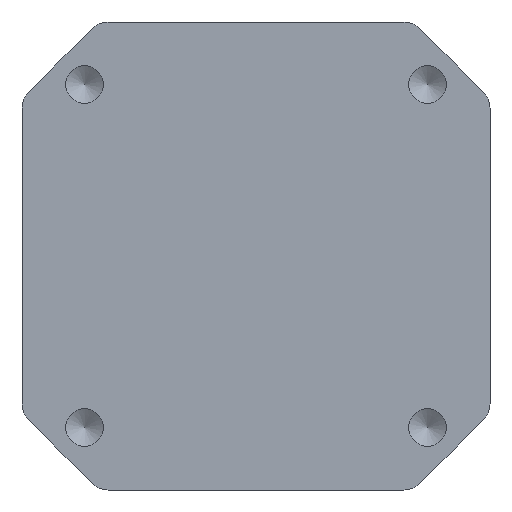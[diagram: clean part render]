
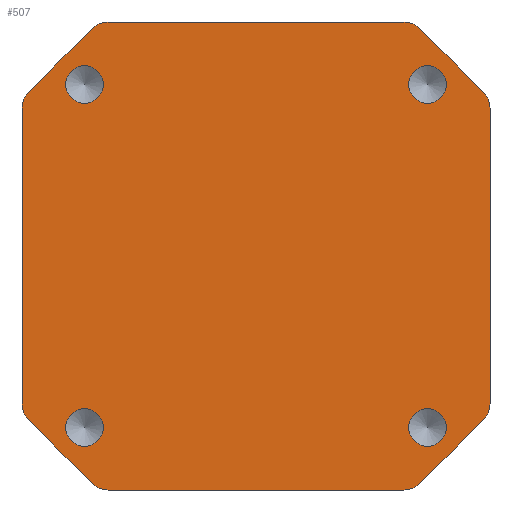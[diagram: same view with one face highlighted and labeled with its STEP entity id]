
A CAD part, front view. The second image highlights one B-rep face of the part: STEP entity #507.
In plain terms, the highlighted planar face has unit normal (0, -1, 0).
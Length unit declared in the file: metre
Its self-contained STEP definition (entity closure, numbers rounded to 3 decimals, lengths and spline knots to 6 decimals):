
#52=LINE('',#828,#84);
#53=LINE('',#833,#85);
#54=LINE('',#837,#86);
#55=LINE('',#841,#87);
#56=LINE('',#845,#88);
#57=LINE('',#849,#89);
#58=LINE('',#853,#90);
#59=LINE('',#857,#91);
#84=VECTOR('',#657,1.);
#85=VECTOR('',#660,1.);
#86=VECTOR('',#663,1.);
#87=VECTOR('',#666,1.);
#88=VECTOR('',#669,1.);
#89=VECTOR('',#672,1.);
#90=VECTOR('',#675,1.);
#91=VECTOR('',#678,1.);
#128=ORIENTED_EDGE('',*,*,#256,.T.);
#129=ORIENTED_EDGE('',*,*,#257,.T.);
#130=ORIENTED_EDGE('',*,*,#258,.T.);
#131=ORIENTED_EDGE('',*,*,#259,.F.);
#132=ORIENTED_EDGE('',*,*,#260,.F.);
#133=ORIENTED_EDGE('',*,*,#261,.T.);
#134=ORIENTED_EDGE('',*,*,#262,.T.);
#135=ORIENTED_EDGE('',*,*,#263,.F.);
#136=ORIENTED_EDGE('',*,*,#264,.F.);
#137=ORIENTED_EDGE('',*,*,#265,.T.);
#138=ORIENTED_EDGE('',*,*,#266,.T.);
#139=ORIENTED_EDGE('',*,*,#267,.F.);
#140=ORIENTED_EDGE('',*,*,#268,.F.);
#141=ORIENTED_EDGE('',*,*,#269,.T.);
#142=ORIENTED_EDGE('',*,*,#270,.T.);
#143=ORIENTED_EDGE('',*,*,#271,.F.);
#144=ORIENTED_EDGE('',*,*,#272,.F.);
#145=ORIENTED_EDGE('',*,*,#273,.F.);
#146=ORIENTED_EDGE('',*,*,#274,.F.);
#147=ORIENTED_EDGE('',*,*,#275,.F.);
#256=EDGE_CURVE('',#320,#321,#52,.T.);
#257=EDGE_CURVE('',#321,#322,#368,.F.);
#258=EDGE_CURVE('',#322,#323,#53,.T.);
#259=EDGE_CURVE('',#324,#323,#369,.T.);
#260=EDGE_CURVE('',#325,#324,#54,.F.);
#261=EDGE_CURVE('',#325,#326,#370,.F.);
#262=EDGE_CURVE('',#326,#327,#55,.T.);
#263=EDGE_CURVE('',#328,#327,#371,.T.);
#264=EDGE_CURVE('',#329,#328,#56,.F.);
#265=EDGE_CURVE('',#329,#330,#372,.F.);
#266=EDGE_CURVE('',#330,#331,#57,.T.);
#267=EDGE_CURVE('',#332,#331,#373,.T.);
#268=EDGE_CURVE('',#333,#332,#58,.F.);
#269=EDGE_CURVE('',#333,#334,#374,.F.);
#270=EDGE_CURVE('',#334,#335,#59,.T.);
#271=EDGE_CURVE('',#320,#335,#375,.T.);
#272=EDGE_CURVE('',#336,#336,#376,.T.);
#273=EDGE_CURVE('',#337,#337,#377,.T.);
#274=EDGE_CURVE('',#338,#338,#378,.T.);
#275=EDGE_CURVE('',#339,#339,#379,.T.);
#320=VERTEX_POINT('',#829);
#321=VERTEX_POINT('',#830);
#322=VERTEX_POINT('',#832);
#323=VERTEX_POINT('',#834);
#324=VERTEX_POINT('',#836);
#325=VERTEX_POINT('',#838);
#326=VERTEX_POINT('',#840);
#327=VERTEX_POINT('',#842);
#328=VERTEX_POINT('',#844);
#329=VERTEX_POINT('',#846);
#330=VERTEX_POINT('',#848);
#331=VERTEX_POINT('',#850);
#332=VERTEX_POINT('',#852);
#333=VERTEX_POINT('',#854);
#334=VERTEX_POINT('',#856);
#335=VERTEX_POINT('',#858);
#336=VERTEX_POINT('',#861);
#337=VERTEX_POINT('',#863);
#338=VERTEX_POINT('',#865);
#339=VERTEX_POINT('',#867);
#368=CIRCLE('',#567,0.002);
#369=CIRCLE('',#568,0.002);
#370=CIRCLE('',#569,0.002);
#371=CIRCLE('',#570,0.002);
#372=CIRCLE('',#571,0.002);
#373=CIRCLE('',#572,0.002);
#374=CIRCLE('',#573,0.002);
#375=CIRCLE('',#574,0.002);
#376=CIRCLE('',#575,0.0017);
#377=CIRCLE('',#576,0.0017);
#378=CIRCLE('',#577,0.0017);
#379=CIRCLE('',#578,0.0017);
#393=EDGE_LOOP('',(#128,#129,#130,#131,#132,#133,#134,#135,#136,#137,#138,
#139,#140,#141,#142,#143));
#394=EDGE_LOOP('',(#144));
#395=EDGE_LOOP('',(#145));
#396=EDGE_LOOP('',(#146));
#397=EDGE_LOOP('',(#147));
#443=FACE_BOUND('',#393,.T.);
#444=FACE_BOUND('',#394,.T.);
#445=FACE_BOUND('',#395,.T.);
#446=FACE_BOUND('',#396,.T.);
#447=FACE_BOUND('',#397,.T.);
#497=PLANE('',#566);
#507=ADVANCED_FACE('',(#443,#444,#445,#446,#447),#497,.F.);
#566=AXIS2_PLACEMENT_3D('',#827,#655,#656);
#567=AXIS2_PLACEMENT_3D('',#831,#658,#659);
#568=AXIS2_PLACEMENT_3D('',#835,#661,#662);
#569=AXIS2_PLACEMENT_3D('',#839,#664,#665);
#570=AXIS2_PLACEMENT_3D('',#843,#667,#668);
#571=AXIS2_PLACEMENT_3D('',#847,#670,#671);
#572=AXIS2_PLACEMENT_3D('',#851,#673,#674);
#573=AXIS2_PLACEMENT_3D('',#855,#676,#677);
#574=AXIS2_PLACEMENT_3D('',#859,#679,#680);
#575=AXIS2_PLACEMENT_3D('',#860,#681,#682);
#576=AXIS2_PLACEMENT_3D('',#862,#683,#684);
#577=AXIS2_PLACEMENT_3D('',#864,#685,#686);
#578=AXIS2_PLACEMENT_3D('',#866,#687,#688);
#655=DIRECTION('',(0.,1.,0.));
#656=DIRECTION('',(0.,0.,1.));
#657=DIRECTION('',(1.,0.,0.));
#658=DIRECTION('',(0.,1.,0.));
#659=DIRECTION('',(0.,0.,1.));
#660=DIRECTION('',(0.707,0.,0.707));
#661=DIRECTION('',(0.,1.,0.));
#662=DIRECTION('',(0.,0.,1.));
#663=DIRECTION('',(0.,0.,1.));
#664=DIRECTION('',(0.,1.,0.));
#665=DIRECTION('',(0.,0.,1.));
#666=DIRECTION('',(-0.707,0.,0.707));
#667=DIRECTION('',(0.,1.,0.));
#668=DIRECTION('',(0.,0.,1.));
#669=DIRECTION('',(-1.,0.,0.));
#670=DIRECTION('',(0.,1.,0.));
#671=DIRECTION('',(0.,0.,1.));
#672=DIRECTION('',(-0.707,0.,-0.707));
#673=DIRECTION('',(0.,1.,0.));
#674=DIRECTION('',(0.,0.,1.));
#675=DIRECTION('',(0.,0.,-1.));
#676=DIRECTION('',(0.,1.,0.));
#677=DIRECTION('',(0.,0.,1.));
#678=DIRECTION('',(0.707,0.,-0.707));
#679=DIRECTION('',(0.,1.,0.));
#680=DIRECTION('',(0.,0.,1.));
#681=DIRECTION('',(0.,-1.,0.));
#682=DIRECTION('',(0.,0.,-1.));
#683=DIRECTION('',(0.,-1.,0.));
#684=DIRECTION('',(0.,0.,-1.));
#685=DIRECTION('',(0.,-1.,0.));
#686=DIRECTION('',(0.,0.,-1.));
#687=DIRECTION('',(0.,-1.,0.));
#688=DIRECTION('',(0.,0.,-1.));
#827=CARTESIAN_POINT('',(0.016327,0.01,-0.02115));
#828=CARTESIAN_POINT('',(0.016327,0.01,-0.02115));
#829=CARTESIAN_POINT('',(-0.013377,0.01,-0.02115));
#830=CARTESIAN_POINT('',(0.013377,0.01,-0.02115));
#831=CARTESIAN_POINT('',(0.013377,0.01,-0.01915));
#832=CARTESIAN_POINT('',(0.014791,0.01,-0.020564));
#833=CARTESIAN_POINT('',(0.014791,0.01,-0.020564));
#834=CARTESIAN_POINT('',(0.020564,0.01,-0.014791));
#835=CARTESIAN_POINT('',(0.01915,0.01,-0.013377));
#836=CARTESIAN_POINT('',(0.02115,0.01,-0.013377));
#837=CARTESIAN_POINT('',(0.02115,0.01,0.016327));
#838=CARTESIAN_POINT('',(0.02115,0.01,0.013377));
#839=CARTESIAN_POINT('',(0.01915,0.01,0.013377));
#840=CARTESIAN_POINT('',(0.020564,0.01,0.014791));
#841=CARTESIAN_POINT('',(0.020564,0.01,0.014791));
#842=CARTESIAN_POINT('',(0.014791,0.01,0.020564));
#843=CARTESIAN_POINT('',(0.013377,0.01,0.01915));
#844=CARTESIAN_POINT('',(0.013377,0.01,0.02115));
#845=CARTESIAN_POINT('',(-0.016327,0.01,0.02115));
#846=CARTESIAN_POINT('',(-0.013377,0.01,0.02115));
#847=CARTESIAN_POINT('',(-0.013377,0.01,0.01915));
#848=CARTESIAN_POINT('',(-0.014791,0.01,0.020564));
#849=CARTESIAN_POINT('',(-0.014791,0.01,0.020564));
#850=CARTESIAN_POINT('',(-0.020564,0.01,0.014791));
#851=CARTESIAN_POINT('',(-0.01915,0.01,0.013377));
#852=CARTESIAN_POINT('',(-0.02115,0.01,0.013377));
#853=CARTESIAN_POINT('',(-0.02115,0.01,0.016327));
#854=CARTESIAN_POINT('',(-0.02115,0.01,-0.013377));
#855=CARTESIAN_POINT('',(-0.01915,0.01,-0.013377));
#856=CARTESIAN_POINT('',(-0.020564,0.01,-0.014791));
#857=CARTESIAN_POINT('',(-0.020564,0.01,-0.014791));
#858=CARTESIAN_POINT('',(-0.014791,0.01,-0.020564));
#859=CARTESIAN_POINT('',(-0.013377,0.01,-0.01915));
#860=CARTESIAN_POINT('',(-0.0155,0.01,-0.0155));
#861=CARTESIAN_POINT('',(-0.0155,0.01,-0.0172));
#862=CARTESIAN_POINT('',(0.0155,0.01,0.0155));
#863=CARTESIAN_POINT('',(0.0155,0.01,0.0138));
#864=CARTESIAN_POINT('',(-0.0155,0.01,0.0155));
#865=CARTESIAN_POINT('',(-0.0155,0.01,0.0138));
#866=CARTESIAN_POINT('',(0.0155,0.01,-0.0155));
#867=CARTESIAN_POINT('',(0.0155,0.01,-0.0172));
